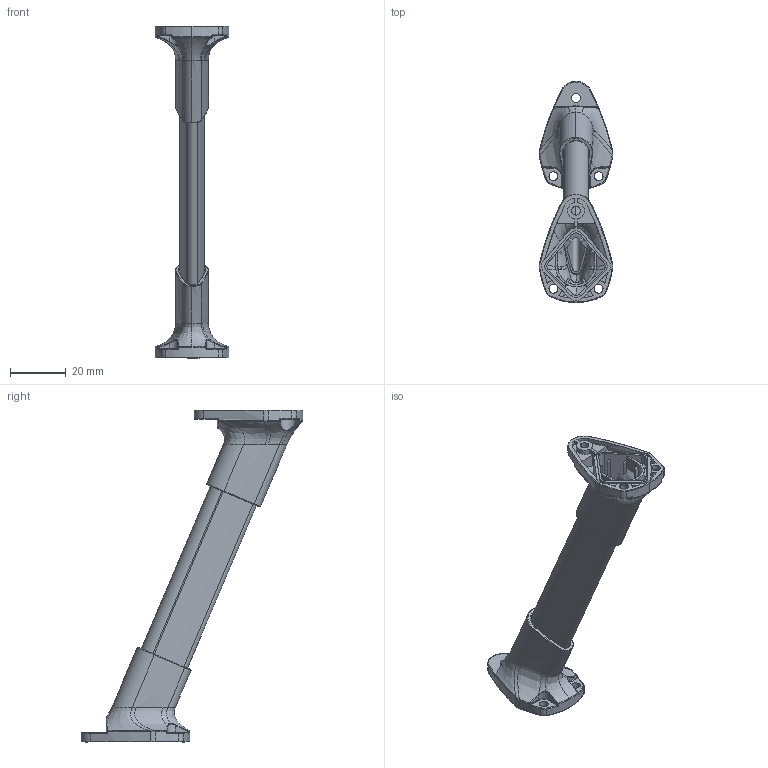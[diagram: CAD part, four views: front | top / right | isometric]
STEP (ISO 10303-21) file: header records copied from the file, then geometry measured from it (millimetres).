
FILE_DESCRIPTION (( 'STEP AP214' ), '1' );
FILE_NAME ('HerePro_Istand.STEP', '2023-05-17T02:00:33', ( '' ), ( '' ), 'SwSTEP 2.0', 'SolidWorks 2018', '' );
FILE_SCHEMA (( 'AUTOMOTIVE_DESIGN' ));
Length unit declared in the file: millimetre
Products named in the file (4): btm_stand_base_20201107; HerePro_Istand; top_stand_base_20201107.stp; 9mm_stand_arm_HERE_PRO_20201107.stp
Assembly tree (3 placements, depth 2):
  HerePro_Istand
    btm_stand_base_20201107
    9mm_stand_arm_HERE_PRO_20201107.stp
    top_stand_base_20201107.stp
Bounding box: 26.6 x 79.79 x 119.48 mm (x, y, z)
Volume: 11295.3 mm3; surface area: 19462.5 mm2
Topology: 3 solids, 3 shells, 613 faces, 1620 edges, 1013 vertices
Faces by surface type: bspline 239, plane 186, cylinder 141, torus 23, cone 12, sphere 12
Entity records: 34600 total; most frequent: CARTESIAN_POINT 21040, ORIENTED_EDGE 3240, DIRECTION 2186, EDGE_CURVE 1620, VERTEX_POINT 1013, AXIS2_PLACEMENT_3D 796, EDGE_LOOP 631, FACE_OUTER_BOUND 613
